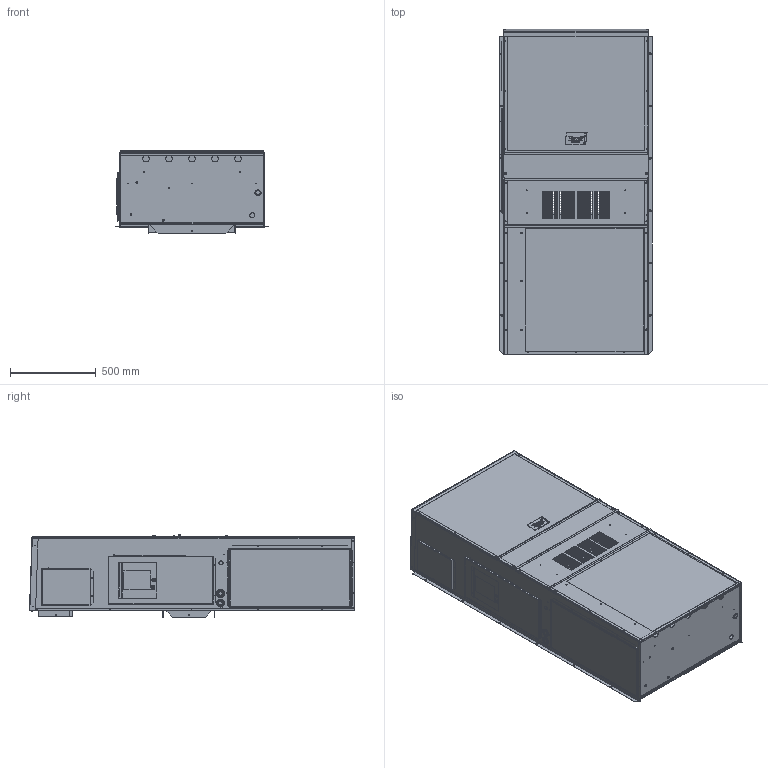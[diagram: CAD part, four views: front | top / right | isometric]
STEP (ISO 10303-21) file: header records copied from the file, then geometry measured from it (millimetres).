
FILE_DESCRIPTION (( 'STEP AP203' ), '1' );
FILE_NAME ('STEP_700.STEP', '2016-06-21T15:34:33', ( '' ), ( '' ), 'SwSTEP 2.0', 'SolidWorks 2016', '' );
FILE_SCHEMA (( 'CONFIG_CONTROL_DESIGN' ));
Products named in the file (1): STEP_700
Bounding box: 888.56 x 1893.77 x 479.3 mm (x, y, z)
Volume: 5592542.7 mm3; surface area: 12552413.6 mm2
Topology: 40 solids, 40 shells, 3581 faces, 9484 edges, 6070 vertices
Faces by surface type: plane 1391, cylinder 1081, torus 894, bspline 168, sphere 27, cone 20
Entity records: 147313 total; most frequent: CARTESIAN_POINT 56470, DIRECTION 19112, ORIENTED_EDGE 18954, EDGE_CURVE 9477, AXIS2_PLACEMENT_3D 7320, VERTEX_POINT 6068, LINE 4472, VECTOR 4472
